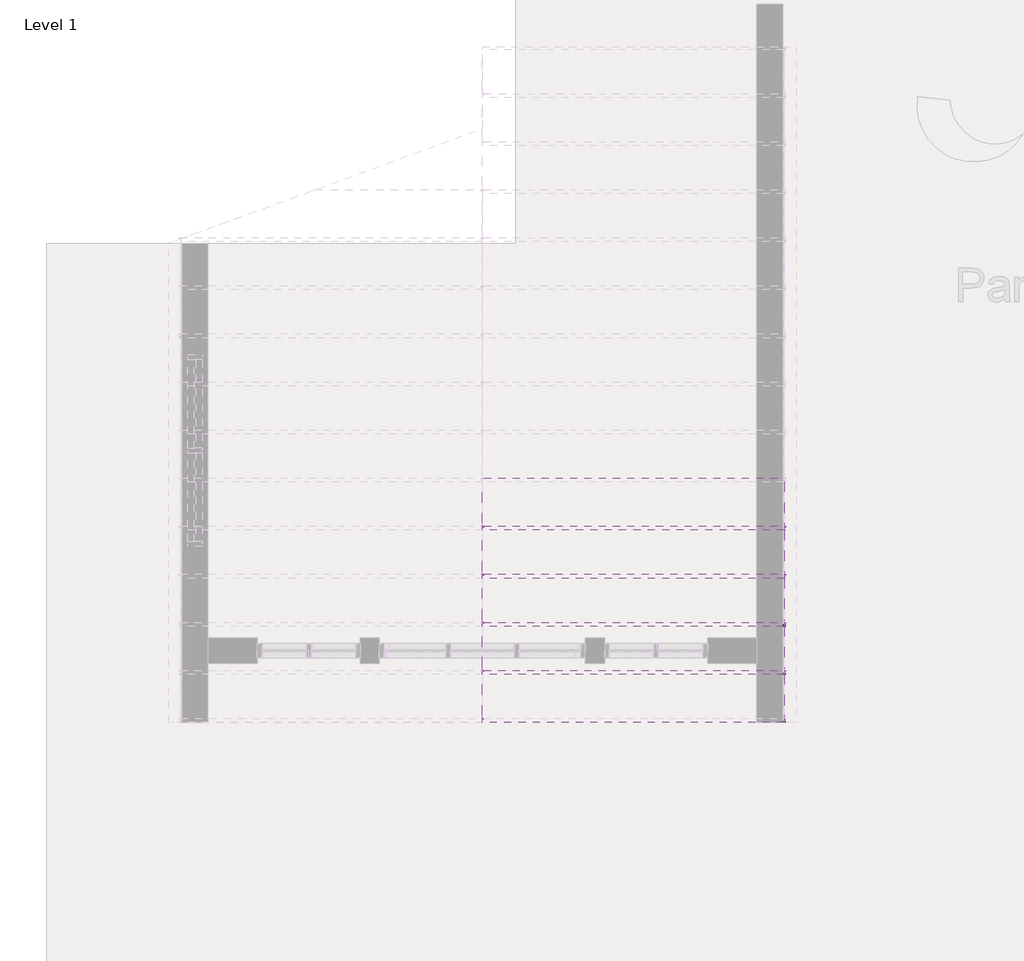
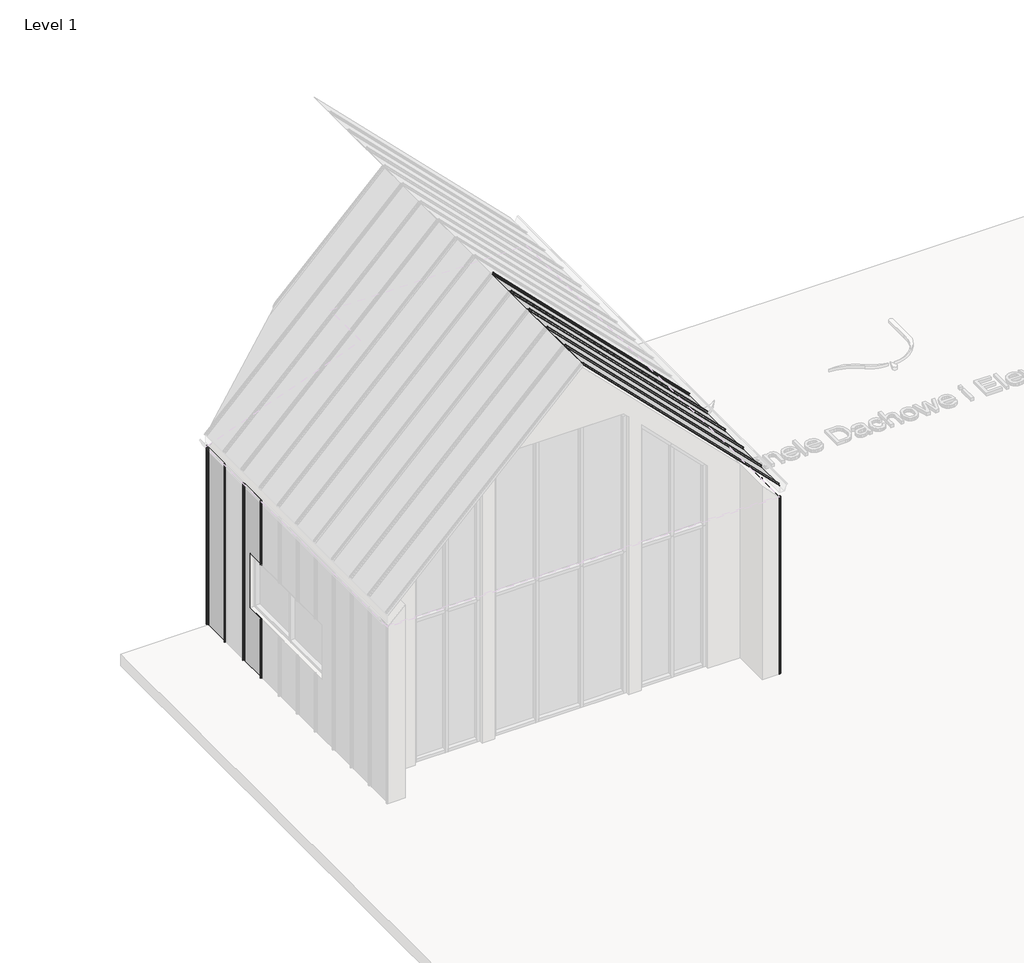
# One storey, part 5 of 22: 10 proxies.
"""IFC4 building model written with IfcOpenShell, lengths in millimetres."""

from ifc_helpers import new_model, si_unit, point, frame, frame_2d, origin, place, context, project, spatial, polyline, circle_curve, trimmed, segment, composite_curve, outline, extrude, transform, mapped, element, save
from components import aqua_579f6fc6

model = new_model("IFC4")

# Units and contexts
model_context = context("Model", 3, world=origin())
ifc_project = project(units=[si_unit("LENGTHUNIT", "METRE", prefix="MILLI")], contexts=[model_context])

# Site, building, storey
site = spatial("IfcSite", under=ifc_project)
building = spatial("IfcBuilding", under=site)
storey = spatial("IfcBuildingStorey", under=building, Name="Level 1", Elevation=0.0)

# Proxies
placement = place(None, origin())
element("IfcBuildingElementProxy", 1, Name="AQUAPLAST - Panel Dachowy i Elewacyjny Aqua : Aqua", ObjectType="AQUAPLAST - Panel Dachowy i Elewacyjny Aqua : Aqua", at=placement, inside=storey, context=model_context, shape_type="SweptSolid", body=[
    extrude(outline(polyline([(0.0, 432.2000503), (4454.0, 432.2000503), (4454.0, 0.0), (0.0, 0.0), (0.0, 432.2000503)])), frame((-5287.0692136, 8737.4302375, 6945.9959293), z_axis=(0.7071067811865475, 0.0, 0.7071067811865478), x_axis=(0.7071067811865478, 0.0, -0.7071067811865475)), (0.0, 0.0, 1.0), 0.8),
    extrude(outline(composite_curve([segment(polyline([(1.6, -36.6), (0.8, -40.1), (0.0, -40.1), (0.8000601, -36.6), (0.8000601, -12.7000752)]), True, "CONTINUOUS"), segment(trimmed(circle_curve(frame_2d((1.2999699, -12.7000752)), 0.4999098), [point((0.8000601, -12.7000752))], [point((1.2999699, -12.2001654))], False, "CARTESIAN"), True, "CONTINUOUS"), segment(polyline([(1.2999699, -12.2001654), (23.7003195, -12.2001654)]), True, "CONTINUOUS"), segment(trimmed(circle_curve(frame_2d((23.7003195, -11.6998422)), 0.5003233), [point((23.7003195, -12.2001654))], [point((24.2006428, -11.6998422))], True, "CARTESIAN"), True, "CONTINUOUS"), segment(polyline([(24.2006428, -11.6998422), (24.2006428, -1.2033228)]), True, "CONTINUOUS"), segment(trimmed(circle_curve(frame_2d((23.6993591, -1.2033228)), 0.5012837), [point((24.2006428, -1.2033228))], [point((23.6993591, -0.7020391))], True, "CARTESIAN"), True, "CONTINUOUS"), segment(polyline([(23.6993591, -0.7020391), (9.7850119, -0.7020391)]), True, "CONTINUOUS"), segment(trimmed(circle_curve(frame_2d((9.7850119, -1.6460516)), 0.9440125), [point((9.7850119, -0.7020391))], [point((8.9478643, -1.2097679))], True, "CARTESIAN"), True, "CONTINUOUS"), segment(trimmed(circle_curve(frame_2d((5.4137846, -0.6808077)), 3.5734462), [point((8.9478643, -1.2097679))], [point((1.8403383, -0.6808077))], False, "CARTESIAN"), True, "CONTINUOUS"), segment(polyline([(1.8403383, -0.6808077), (2.6405793, -0.6808077)]), True, "CONTINUOUS"), segment(trimmed(circle_curve(frame_2d((5.3847863, -0.6808077)), 2.7442071), [point((2.6405793, -0.6808077))], [point((8.1289934, -0.6808077))], True, "CARTESIAN"), True, "CONTINUOUS"), segment(trimmed(circle_curve(frame_2d((8.8039224, -0.6749544)), 0.6749543), [point((8.1289934, -0.6808077))], [point((8.8039224, 0.0))], False, "CARTESIAN"), True, "CONTINUOUS"), segment(polyline([(8.8039224, 0.0), (24.4999999, 0.0)]), True, "CONTINUOUS"), segment(trimmed(circle_curve(frame_2d((24.4999999, -0.5)), 0.5), [point((24.4999999, 0.0))], [point((25.0, -0.5))], False, "CARTESIAN"), True, "CONTINUOUS"), segment(polyline([(25.0, -0.5), (25.0, -12.5)]), True, "CONTINUOUS"), segment(trimmed(circle_curve(frame_2d((24.4999999, -12.5)), 0.5), [point((25.0, -12.5))], [point((24.4999999, -13.0))], False, "CARTESIAN"), True, "CONTINUOUS"), segment(polyline([(24.4999999, -13.0), (2.0999999, -13.0)]), True, "CONTINUOUS"), segment(trimmed(circle_curve(frame_2d((2.0999999, -13.5)), 0.5), [point((2.0999999, -13.0))], [point((1.6, -13.5))], True, "CARTESIAN"), True, "CONTINUOUS"), segment(polyline([(1.6, -13.5), (1.6, -36.6)]), True, "CONTINUOUS")], self_intersect=False)), frame((-2137.6156102, 9209.7302878, 3796.5423259), z_axis=(-0.7071067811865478, 0.0, 0.7071067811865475), x_axis=(0.7071067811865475, 0.0, 0.7071067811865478)), (0.0, 0.0, 1.0), 4454.0),
    extrude(outline(composite_curve([segment(polyline([(0.8, 0.0), (0.0, 0.0), (0.0, 31.2652327)]), True, "CONTINUOUS"), segment(trimmed(circle_curve(frame_2d((0.7400208, 31.2652327)), 0.7400208), [point((0.0, 31.2652327))], [point((0.6241817, 31.9961308))], False, "CARTESIAN"), True, "CONTINUOUS"), segment(polyline([(0.6241817, 31.9961308), (18.4803326, 34.8261302)]), True, "CONTINUOUS"), segment(trimmed(circle_curve(frame_2d((18.1818617, 36.709361)), 1.9067363), [point((18.4803326, 34.8261302))], [point((19.1352299, 38.3606431))], True, "CARTESIAN"), True, "CONTINUOUS"), segment(polyline([(19.1352299, 38.3606431), (11.8934079, 41.2724068)]), True, "CONTINUOUS"), segment(trimmed(circle_curve(frame_2d((11.2676679, 39.7161343)), 1.6773594), [point((11.8934079, 41.2724068))], [point((9.7513873, 40.4333707))], True, "CARTESIAN"), True, "CONTINUOUS"), segment(trimmed(circle_curve(frame_2d((5.5014361, 42.4436979)), 4.7014361), [point((9.7513873, 40.4333707))], [point((0.8, 42.4436979))], False, "CARTESIAN"), True, "CONTINUOUS"), segment(polyline([(0.8, 42.4436979), (0.8, 69.1999497), (0.0, 72.6999497), (0.8, 72.6999497), (1.6, 69.1999497), (1.6, 42.2845224)]), True, "CONTINUOUS"), segment(trimmed(circle_curve(frame_2d((5.4667311, 42.2845224)), 3.8667311), [point((1.6, 42.2845224))], [point((9.0024094, 40.7190866))], True, "CARTESIAN"), True, "CONTINUOUS"), segment(trimmed(circle_curve(frame_2d((11.2676679, 39.7161343)), 2.4773594), [point((9.0024094, 40.7190866))], [point((12.1941629, 42.0137236))], False, "CARTESIAN"), True, "CONTINUOUS"), segment(polyline([(12.1941629, 42.0137236), (19.5352299, 39.0534634)]), True, "CONTINUOUS"), segment(trimmed(circle_curve(frame_2d((18.1818617, 36.709361)), 2.7067363), [point((19.5352299, 39.0534634))], [point((18.7653553, 34.0662651))], False, "CARTESIAN"), True, "CONTINUOUS"), segment(polyline([(18.7653553, 34.0662651), (1.3501316, 31.0333084)]), True, "CONTINUOUS"), segment(trimmed(circle_curve(frame_2d((1.4640676, 30.379088)), 0.6640676), [point((1.3501316, 31.0333084))], [point((0.8, 30.379088))], True, "CARTESIAN"), True, "CONTINUOUS"), segment(polyline([(0.8, 30.379088), (0.8, 0.0)]), True, "CONTINUOUS")], self_intersect=False)), frame((-2137.6156102, 8664.7302878, 3796.5423259), z_axis=(-0.7071067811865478, 0.0, 0.7071067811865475), x_axis=(0.7071067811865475, 0.0, 0.7071067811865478)), (0.0, 0.0, 1.0), 4454.0),
])
element("IfcBuildingElementProxy", 2, Name="AQUAPLAST - Panel Dachowy i Elewacyjny Aqua : Aqua", ObjectType="AQUAPLAST - Panel Dachowy i Elewacyjny Aqua : Aqua", at=placement, inside=storey, context=model_context, shape_type="SweptSolid", body=[
    extrude(outline(polyline([(0.0, 432.2000503), (4454.0, 432.2000503), (4454.0, 0.0), (0.0, 0.0), (0.0, 432.2000503)])), frame((-5287.0692136, 9239.4302375, 6945.9959293), z_axis=(0.7071067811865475, 0.0, 0.7071067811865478), x_axis=(0.7071067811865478, 0.0, -0.7071067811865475)), (0.0, 0.0, 1.0), 0.8),
    extrude(outline(composite_curve([segment(polyline([(1.6, -36.6), (0.8, -40.1), (0.0, -40.1), (0.8000601, -36.6), (0.8000601, -12.7000752)]), True, "CONTINUOUS"), segment(trimmed(circle_curve(frame_2d((1.2999699, -12.7000752)), 0.4999098), [point((0.8000601, -12.7000752))], [point((1.2999699, -12.2001654))], False, "CARTESIAN"), True, "CONTINUOUS"), segment(polyline([(1.2999699, -12.2001654), (23.7003195, -12.2001654)]), True, "CONTINUOUS"), segment(trimmed(circle_curve(frame_2d((23.7003195, -11.6998422)), 0.5003233), [point((23.7003195, -12.2001654))], [point((24.2006428, -11.6998422))], True, "CARTESIAN"), True, "CONTINUOUS"), segment(polyline([(24.2006428, -11.6998422), (24.2006428, -1.2033228)]), True, "CONTINUOUS"), segment(trimmed(circle_curve(frame_2d((23.6993591, -1.2033228)), 0.5012837), [point((24.2006428, -1.2033228))], [point((23.6993591, -0.7020391))], True, "CARTESIAN"), True, "CONTINUOUS"), segment(polyline([(23.6993591, -0.7020391), (9.7850119, -0.7020391)]), True, "CONTINUOUS"), segment(trimmed(circle_curve(frame_2d((9.7850119, -1.6460516)), 0.9440125), [point((9.7850119, -0.7020391))], [point((8.9478643, -1.2097679))], True, "CARTESIAN"), True, "CONTINUOUS"), segment(trimmed(circle_curve(frame_2d((5.4137846, -0.6808077)), 3.5734462), [point((8.9478643, -1.2097679))], [point((1.8403383, -0.6808077))], False, "CARTESIAN"), True, "CONTINUOUS"), segment(polyline([(1.8403383, -0.6808077), (2.6405793, -0.6808077)]), True, "CONTINUOUS"), segment(trimmed(circle_curve(frame_2d((5.3847863, -0.6808077)), 2.7442071), [point((2.6405793, -0.6808077))], [point((8.1289934, -0.6808077))], True, "CARTESIAN"), True, "CONTINUOUS"), segment(trimmed(circle_curve(frame_2d((8.8039224, -0.6749544)), 0.6749543), [point((8.1289934, -0.6808077))], [point((8.8039224, 0.0))], False, "CARTESIAN"), True, "CONTINUOUS"), segment(polyline([(8.8039224, 0.0), (24.4999999, 0.0)]), True, "CONTINUOUS"), segment(trimmed(circle_curve(frame_2d((24.4999999, -0.5)), 0.5), [point((24.4999999, 0.0))], [point((25.0, -0.5))], False, "CARTESIAN"), True, "CONTINUOUS"), segment(polyline([(25.0, -0.5), (25.0, -12.5)]), True, "CONTINUOUS"), segment(trimmed(circle_curve(frame_2d((24.4999999, -12.5)), 0.5), [point((25.0, -12.5))], [point((24.4999999, -13.0))], False, "CARTESIAN"), True, "CONTINUOUS"), segment(polyline([(24.4999999, -13.0), (2.0999999, -13.0)]), True, "CONTINUOUS"), segment(trimmed(circle_curve(frame_2d((2.0999999, -13.5)), 0.5), [point((2.0999999, -13.0))], [point((1.6, -13.5))], True, "CARTESIAN"), True, "CONTINUOUS"), segment(polyline([(1.6, -13.5), (1.6, -36.6)]), True, "CONTINUOUS")], self_intersect=False)), frame((-2137.6156102, 9711.7302878, 3796.5423259), z_axis=(-0.7071067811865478, 0.0, 0.7071067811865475), x_axis=(0.7071067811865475, 0.0, 0.7071067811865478)), (0.0, 0.0, 1.0), 4454.0),
    extrude(outline(composite_curve([segment(polyline([(0.8, 0.0), (0.0, 0.0), (0.0, 31.2652327)]), True, "CONTINUOUS"), segment(trimmed(circle_curve(frame_2d((0.7400208, 31.2652327)), 0.7400208), [point((0.0, 31.2652327))], [point((0.6241817, 31.9961308))], False, "CARTESIAN"), True, "CONTINUOUS"), segment(polyline([(0.6241817, 31.9961308), (18.4803326, 34.8261302)]), True, "CONTINUOUS"), segment(trimmed(circle_curve(frame_2d((18.1818617, 36.709361)), 1.9067363), [point((18.4803326, 34.8261302))], [point((19.1352299, 38.3606431))], True, "CARTESIAN"), True, "CONTINUOUS"), segment(polyline([(19.1352299, 38.3606431), (11.8934079, 41.2724068)]), True, "CONTINUOUS"), segment(trimmed(circle_curve(frame_2d((11.2676679, 39.7161343)), 1.6773594), [point((11.8934079, 41.2724068))], [point((9.7513873, 40.4333707))], True, "CARTESIAN"), True, "CONTINUOUS"), segment(trimmed(circle_curve(frame_2d((5.5014361, 42.4436979)), 4.7014361), [point((9.7513873, 40.4333707))], [point((0.8, 42.4436979))], False, "CARTESIAN"), True, "CONTINUOUS"), segment(polyline([(0.8, 42.4436979), (0.8, 69.1999497), (0.0, 72.6999497), (0.8, 72.6999497), (1.6, 69.1999497), (1.6, 42.2845224)]), True, "CONTINUOUS"), segment(trimmed(circle_curve(frame_2d((5.4667311, 42.2845224)), 3.8667311), [point((1.6, 42.2845224))], [point((9.0024094, 40.7190866))], True, "CARTESIAN"), True, "CONTINUOUS"), segment(trimmed(circle_curve(frame_2d((11.2676679, 39.7161343)), 2.4773594), [point((9.0024094, 40.7190866))], [point((12.1941629, 42.0137236))], False, "CARTESIAN"), True, "CONTINUOUS"), segment(polyline([(12.1941629, 42.0137236), (19.5352299, 39.0534634)]), True, "CONTINUOUS"), segment(trimmed(circle_curve(frame_2d((18.1818617, 36.709361)), 2.7067363), [point((19.5352299, 39.0534634))], [point((18.7653553, 34.0662651))], False, "CARTESIAN"), True, "CONTINUOUS"), segment(polyline([(18.7653553, 34.0662651), (1.3501316, 31.0333084)]), True, "CONTINUOUS"), segment(trimmed(circle_curve(frame_2d((1.4640676, 30.379088)), 0.6640676), [point((1.3501316, 31.0333084))], [point((0.8, 30.379088))], True, "CARTESIAN"), True, "CONTINUOUS"), segment(polyline([(0.8, 30.379088), (0.8, 0.0)]), True, "CONTINUOUS")], self_intersect=False)), frame((-2137.6156102, 9166.7302878, 3796.5423259), z_axis=(-0.7071067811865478, 0.0, 0.7071067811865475), x_axis=(0.7071067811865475, 0.0, 0.7071067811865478)), (0.0, 0.0, 1.0), 4454.0),
])
element("IfcBuildingElementProxy", 3, Name="AQUAPLAST - Panel Dachowy i Elewacyjny Aqua : Aqua", ObjectType="AQUAPLAST - Panel Dachowy i Elewacyjny Aqua : Aqua", at=placement, inside=storey, context=model_context, shape_type="SweptSolid", body=[
    extrude(outline(polyline([(0.0, 432.2000503), (4454.0, 432.2000503), (4454.0, 0.0), (0.0, 0.0), (0.0, 432.2000503)])), frame((-5287.0692136, 9741.4302375, 6945.9959293), z_axis=(0.7071067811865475, 0.0, 0.7071067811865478), x_axis=(0.7071067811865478, 0.0, -0.7071067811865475)), (0.0, 0.0, 1.0), 0.8),
    extrude(outline(composite_curve([segment(polyline([(1.6, -36.6), (0.8, -40.1), (0.0, -40.1), (0.8000601, -36.6), (0.8000601, -12.7000752)]), True, "CONTINUOUS"), segment(trimmed(circle_curve(frame_2d((1.2999699, -12.7000752)), 0.4999098), [point((0.8000601, -12.7000752))], [point((1.2999699, -12.2001654))], False, "CARTESIAN"), True, "CONTINUOUS"), segment(polyline([(1.2999699, -12.2001654), (23.7003195, -12.2001654)]), True, "CONTINUOUS"), segment(trimmed(circle_curve(frame_2d((23.7003195, -11.6998422)), 0.5003233), [point((23.7003195, -12.2001654))], [point((24.2006428, -11.6998422))], True, "CARTESIAN"), True, "CONTINUOUS"), segment(polyline([(24.2006428, -11.6998422), (24.2006428, -1.2033228)]), True, "CONTINUOUS"), segment(trimmed(circle_curve(frame_2d((23.6993591, -1.2033228)), 0.5012837), [point((24.2006428, -1.2033228))], [point((23.6993591, -0.7020391))], True, "CARTESIAN"), True, "CONTINUOUS"), segment(polyline([(23.6993591, -0.7020391), (9.7850119, -0.7020391)]), True, "CONTINUOUS"), segment(trimmed(circle_curve(frame_2d((9.7850119, -1.6460516)), 0.9440125), [point((9.7850119, -0.7020391))], [point((8.9478643, -1.2097679))], True, "CARTESIAN"), True, "CONTINUOUS"), segment(trimmed(circle_curve(frame_2d((5.4137846, -0.6808077)), 3.5734462), [point((8.9478643, -1.2097679))], [point((1.8403383, -0.6808077))], False, "CARTESIAN"), True, "CONTINUOUS"), segment(polyline([(1.8403383, -0.6808077), (2.6405793, -0.6808077)]), True, "CONTINUOUS"), segment(trimmed(circle_curve(frame_2d((5.3847863, -0.6808077)), 2.7442071), [point((2.6405793, -0.6808077))], [point((8.1289934, -0.6808077))], True, "CARTESIAN"), True, "CONTINUOUS"), segment(trimmed(circle_curve(frame_2d((8.8039224, -0.6749544)), 0.6749543), [point((8.1289934, -0.6808077))], [point((8.8039224, 0.0))], False, "CARTESIAN"), True, "CONTINUOUS"), segment(polyline([(8.8039224, 0.0), (24.4999999, 0.0)]), True, "CONTINUOUS"), segment(trimmed(circle_curve(frame_2d((24.4999999, -0.5)), 0.5), [point((24.4999999, 0.0))], [point((25.0, -0.5))], False, "CARTESIAN"), True, "CONTINUOUS"), segment(polyline([(25.0, -0.5), (25.0, -12.5)]), True, "CONTINUOUS"), segment(trimmed(circle_curve(frame_2d((24.4999999, -12.5)), 0.5), [point((25.0, -12.5))], [point((24.4999999, -13.0))], False, "CARTESIAN"), True, "CONTINUOUS"), segment(polyline([(24.4999999, -13.0), (2.0999999, -13.0)]), True, "CONTINUOUS"), segment(trimmed(circle_curve(frame_2d((2.0999999, -13.5)), 0.5), [point((2.0999999, -13.0))], [point((1.6, -13.5))], True, "CARTESIAN"), True, "CONTINUOUS"), segment(polyline([(1.6, -13.5), (1.6, -36.6)]), True, "CONTINUOUS")], self_intersect=False)), frame((-2137.6156102, 10213.7302878, 3796.5423259), z_axis=(-0.7071067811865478, 0.0, 0.7071067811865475), x_axis=(0.7071067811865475, 0.0, 0.7071067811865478)), (0.0, 0.0, 1.0), 4454.0),
    extrude(outline(composite_curve([segment(polyline([(0.8, 0.0), (0.0, 0.0), (0.0, 31.2652327)]), True, "CONTINUOUS"), segment(trimmed(circle_curve(frame_2d((0.7400208, 31.2652327)), 0.7400208), [point((0.0, 31.2652327))], [point((0.6241817, 31.9961308))], False, "CARTESIAN"), True, "CONTINUOUS"), segment(polyline([(0.6241817, 31.9961308), (18.4803326, 34.8261302)]), True, "CONTINUOUS"), segment(trimmed(circle_curve(frame_2d((18.1818617, 36.709361)), 1.9067363), [point((18.4803326, 34.8261302))], [point((19.1352299, 38.3606431))], True, "CARTESIAN"), True, "CONTINUOUS"), segment(polyline([(19.1352299, 38.3606431), (11.8934079, 41.2724068)]), True, "CONTINUOUS"), segment(trimmed(circle_curve(frame_2d((11.2676679, 39.7161343)), 1.6773594), [point((11.8934079, 41.2724068))], [point((9.7513873, 40.4333707))], True, "CARTESIAN"), True, "CONTINUOUS"), segment(trimmed(circle_curve(frame_2d((5.5014361, 42.4436979)), 4.7014361), [point((9.7513873, 40.4333707))], [point((0.8, 42.4436979))], False, "CARTESIAN"), True, "CONTINUOUS"), segment(polyline([(0.8, 42.4436979), (0.8, 69.1999497), (0.0, 72.6999497), (0.8, 72.6999497), (1.6, 69.1999497), (1.6, 42.2845224)]), True, "CONTINUOUS"), segment(trimmed(circle_curve(frame_2d((5.4667311, 42.2845224)), 3.8667311), [point((1.6, 42.2845224))], [point((9.0024094, 40.7190866))], True, "CARTESIAN"), True, "CONTINUOUS"), segment(trimmed(circle_curve(frame_2d((11.2676679, 39.7161343)), 2.4773594), [point((9.0024094, 40.7190866))], [point((12.1941629, 42.0137236))], False, "CARTESIAN"), True, "CONTINUOUS"), segment(polyline([(12.1941629, 42.0137236), (19.5352299, 39.0534634)]), True, "CONTINUOUS"), segment(trimmed(circle_curve(frame_2d((18.1818617, 36.709361)), 2.7067363), [point((19.5352299, 39.0534634))], [point((18.7653553, 34.0662651))], False, "CARTESIAN"), True, "CONTINUOUS"), segment(polyline([(18.7653553, 34.0662651), (1.3501316, 31.0333084)]), True, "CONTINUOUS"), segment(trimmed(circle_curve(frame_2d((1.4640676, 30.379088)), 0.6640676), [point((1.3501316, 31.0333084))], [point((0.8, 30.379088))], True, "CARTESIAN"), True, "CONTINUOUS"), segment(polyline([(0.8, 30.379088), (0.8, 0.0)]), True, "CONTINUOUS")], self_intersect=False)), frame((-2137.6156102, 9668.7302878, 3796.5423259), z_axis=(-0.7071067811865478, 0.0, 0.7071067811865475), x_axis=(0.7071067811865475, 0.0, 0.7071067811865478)), (0.0, 0.0, 1.0), 4454.0),
])
element("IfcBuildingElementProxy", 4, Name="AQUAPLAST - Panel Dachowy i Elewacyjny Aqua : Aqua", ObjectType="AQUAPLAST - Panel Dachowy i Elewacyjny Aqua : Aqua", at=placement, inside=storey, context=model_context, shape_type="SweptSolid", body=[
    extrude(outline(polyline([(0.0, 432.2000503), (4454.0, 432.2000503), (4454.0, 0.0), (0.0, 0.0), (0.0, 432.2000503)])), frame((-5287.0692136, 10243.4302375, 6945.9959293), z_axis=(0.7071067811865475, 0.0, 0.7071067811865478), x_axis=(0.7071067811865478, 0.0, -0.7071067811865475)), (0.0, 0.0, 1.0), 0.8),
    extrude(outline(composite_curve([segment(polyline([(1.6, -36.6), (0.8, -40.1), (0.0, -40.1), (0.8000601, -36.6), (0.8000601, -12.7000752)]), True, "CONTINUOUS"), segment(trimmed(circle_curve(frame_2d((1.2999699, -12.7000752)), 0.4999098), [point((0.8000601, -12.7000752))], [point((1.2999699, -12.2001654))], False, "CARTESIAN"), True, "CONTINUOUS"), segment(polyline([(1.2999699, -12.2001654), (23.7003195, -12.2001654)]), True, "CONTINUOUS"), segment(trimmed(circle_curve(frame_2d((23.7003195, -11.6998422)), 0.5003233), [point((23.7003195, -12.2001654))], [point((24.2006428, -11.6998422))], True, "CARTESIAN"), True, "CONTINUOUS"), segment(polyline([(24.2006428, -11.6998422), (24.2006428, -1.2033228)]), True, "CONTINUOUS"), segment(trimmed(circle_curve(frame_2d((23.6993591, -1.2033228)), 0.5012837), [point((24.2006428, -1.2033228))], [point((23.6993591, -0.7020391))], True, "CARTESIAN"), True, "CONTINUOUS"), segment(polyline([(23.6993591, -0.7020391), (9.7850119, -0.7020391)]), True, "CONTINUOUS"), segment(trimmed(circle_curve(frame_2d((9.7850119, -1.6460516)), 0.9440125), [point((9.7850119, -0.7020391))], [point((8.9478643, -1.2097679))], True, "CARTESIAN"), True, "CONTINUOUS"), segment(trimmed(circle_curve(frame_2d((5.4137846, -0.6808077)), 3.5734462), [point((8.9478643, -1.2097679))], [point((1.8403383, -0.6808077))], False, "CARTESIAN"), True, "CONTINUOUS"), segment(polyline([(1.8403383, -0.6808077), (2.6405793, -0.6808077)]), True, "CONTINUOUS"), segment(trimmed(circle_curve(frame_2d((5.3847863, -0.6808077)), 2.7442071), [point((2.6405793, -0.6808077))], [point((8.1289934, -0.6808077))], True, "CARTESIAN"), True, "CONTINUOUS"), segment(trimmed(circle_curve(frame_2d((8.8039224, -0.6749544)), 0.6749543), [point((8.1289934, -0.6808077))], [point((8.8039224, 0.0))], False, "CARTESIAN"), True, "CONTINUOUS"), segment(polyline([(8.8039224, 0.0), (24.4999999, 0.0)]), True, "CONTINUOUS"), segment(trimmed(circle_curve(frame_2d((24.4999999, -0.5)), 0.5), [point((24.4999999, 0.0))], [point((25.0, -0.5))], False, "CARTESIAN"), True, "CONTINUOUS"), segment(polyline([(25.0, -0.5), (25.0, -12.5)]), True, "CONTINUOUS"), segment(trimmed(circle_curve(frame_2d((24.4999999, -12.5)), 0.5), [point((25.0, -12.5))], [point((24.4999999, -13.0))], False, "CARTESIAN"), True, "CONTINUOUS"), segment(polyline([(24.4999999, -13.0), (2.0999999, -13.0)]), True, "CONTINUOUS"), segment(trimmed(circle_curve(frame_2d((2.0999999, -13.5)), 0.5), [point((2.0999999, -13.0))], [point((1.6, -13.5))], True, "CARTESIAN"), True, "CONTINUOUS"), segment(polyline([(1.6, -13.5), (1.6, -36.6)]), True, "CONTINUOUS")], self_intersect=False)), frame((-2137.6156102, 10715.7302878, 3796.5423259), z_axis=(-0.7071067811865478, 0.0, 0.7071067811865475), x_axis=(0.7071067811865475, 0.0, 0.7071067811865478)), (0.0, 0.0, 1.0), 4454.0),
    extrude(outline(composite_curve([segment(polyline([(0.8, 0.0), (0.0, 0.0), (0.0, 31.2652327)]), True, "CONTINUOUS"), segment(trimmed(circle_curve(frame_2d((0.7400208, 31.2652327)), 0.7400208), [point((0.0, 31.2652327))], [point((0.6241817, 31.9961308))], False, "CARTESIAN"), True, "CONTINUOUS"), segment(polyline([(0.6241817, 31.9961308), (18.4803326, 34.8261302)]), True, "CONTINUOUS"), segment(trimmed(circle_curve(frame_2d((18.1818617, 36.709361)), 1.9067363), [point((18.4803326, 34.8261302))], [point((19.1352299, 38.3606431))], True, "CARTESIAN"), True, "CONTINUOUS"), segment(polyline([(19.1352299, 38.3606431), (11.8934079, 41.2724068)]), True, "CONTINUOUS"), segment(trimmed(circle_curve(frame_2d((11.2676679, 39.7161343)), 1.6773594), [point((11.8934079, 41.2724068))], [point((9.7513873, 40.4333707))], True, "CARTESIAN"), True, "CONTINUOUS"), segment(trimmed(circle_curve(frame_2d((5.5014361, 42.4436979)), 4.7014361), [point((9.7513873, 40.4333707))], [point((0.8, 42.4436979))], False, "CARTESIAN"), True, "CONTINUOUS"), segment(polyline([(0.8, 42.4436979), (0.8, 69.1999497), (0.0, 72.6999497), (0.8, 72.6999497), (1.6, 69.1999497), (1.6, 42.2845224)]), True, "CONTINUOUS"), segment(trimmed(circle_curve(frame_2d((5.4667311, 42.2845224)), 3.8667311), [point((1.6, 42.2845224))], [point((9.0024094, 40.7190866))], True, "CARTESIAN"), True, "CONTINUOUS"), segment(trimmed(circle_curve(frame_2d((11.2676679, 39.7161343)), 2.4773594), [point((9.0024094, 40.7190866))], [point((12.1941629, 42.0137236))], False, "CARTESIAN"), True, "CONTINUOUS"), segment(polyline([(12.1941629, 42.0137236), (19.5352299, 39.0534634)]), True, "CONTINUOUS"), segment(trimmed(circle_curve(frame_2d((18.1818617, 36.709361)), 2.7067363), [point((19.5352299, 39.0534634))], [point((18.7653553, 34.0662651))], False, "CARTESIAN"), True, "CONTINUOUS"), segment(polyline([(18.7653553, 34.0662651), (1.3501316, 31.0333084)]), True, "CONTINUOUS"), segment(trimmed(circle_curve(frame_2d((1.4640676, 30.379088)), 0.6640676), [point((1.3501316, 31.0333084))], [point((0.8, 30.379088))], True, "CARTESIAN"), True, "CONTINUOUS"), segment(polyline([(0.8, 30.379088), (0.8, 0.0)]), True, "CONTINUOUS")], self_intersect=False)), frame((-2137.6156102, 10170.7302878, 3796.5423259), z_axis=(-0.7071067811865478, 0.0, 0.7071067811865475), x_axis=(0.7071067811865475, 0.0, 0.7071067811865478)), (0.0, 0.0, 1.0), 4454.0),
])
element("IfcBuildingElementProxy", 5, Name="AQUAPLAST - Panel Dachowy i Elewacyjny Aqua : Aqua", ObjectType="AQUAPLAST - Panel Dachowy i Elewacyjny Aqua : Aqua", at=placement, inside=storey, context=model_context, shape_type="SweptSolid", body=[
    extrude(outline(polyline([(0.0, 432.2000503), (4454.0, 432.2000503), (4454.0, 0.0), (0.0, 0.0), (0.0, 432.2000503)])), frame((-5287.0692136, 10745.4302375, 6945.9959293), z_axis=(0.7071067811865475, 0.0, 0.7071067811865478), x_axis=(0.7071067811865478, 0.0, -0.7071067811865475)), (0.0, 0.0, 1.0), 0.8),
    extrude(outline(composite_curve([segment(polyline([(1.6, -36.6), (0.8, -40.1), (0.0, -40.1), (0.8000601, -36.6), (0.8000601, -12.7000752)]), True, "CONTINUOUS"), segment(trimmed(circle_curve(frame_2d((1.2999699, -12.7000752)), 0.4999098), [point((0.8000601, -12.7000752))], [point((1.2999699, -12.2001654))], False, "CARTESIAN"), True, "CONTINUOUS"), segment(polyline([(1.2999699, -12.2001654), (23.7003195, -12.2001654)]), True, "CONTINUOUS"), segment(trimmed(circle_curve(frame_2d((23.7003195, -11.6998422)), 0.5003233), [point((23.7003195, -12.2001654))], [point((24.2006428, -11.6998422))], True, "CARTESIAN"), True, "CONTINUOUS"), segment(polyline([(24.2006428, -11.6998422), (24.2006428, -1.2033228)]), True, "CONTINUOUS"), segment(trimmed(circle_curve(frame_2d((23.6993591, -1.2033228)), 0.5012837), [point((24.2006428, -1.2033228))], [point((23.6993591, -0.7020391))], True, "CARTESIAN"), True, "CONTINUOUS"), segment(polyline([(23.6993591, -0.7020391), (9.7850119, -0.7020391)]), True, "CONTINUOUS"), segment(trimmed(circle_curve(frame_2d((9.7850119, -1.6460516)), 0.9440125), [point((9.7850119, -0.7020391))], [point((8.9478643, -1.2097679))], True, "CARTESIAN"), True, "CONTINUOUS"), segment(trimmed(circle_curve(frame_2d((5.4137846, -0.6808077)), 3.5734462), [point((8.9478643, -1.2097679))], [point((1.8403383, -0.6808077))], False, "CARTESIAN"), True, "CONTINUOUS"), segment(polyline([(1.8403383, -0.6808077), (2.6405793, -0.6808077)]), True, "CONTINUOUS"), segment(trimmed(circle_curve(frame_2d((5.3847863, -0.6808077)), 2.7442071), [point((2.6405793, -0.6808077))], [point((8.1289934, -0.6808077))], True, "CARTESIAN"), True, "CONTINUOUS"), segment(trimmed(circle_curve(frame_2d((8.8039224, -0.6749544)), 0.6749543), [point((8.1289934, -0.6808077))], [point((8.8039224, 0.0))], False, "CARTESIAN"), True, "CONTINUOUS"), segment(polyline([(8.8039224, 0.0), (24.4999999, 0.0)]), True, "CONTINUOUS"), segment(trimmed(circle_curve(frame_2d((24.4999999, -0.5)), 0.5), [point((24.4999999, 0.0))], [point((25.0, -0.5))], False, "CARTESIAN"), True, "CONTINUOUS"), segment(polyline([(25.0, -0.5), (25.0, -12.5)]), True, "CONTINUOUS"), segment(trimmed(circle_curve(frame_2d((24.4999999, -12.5)), 0.5), [point((25.0, -12.5))], [point((24.4999999, -13.0))], False, "CARTESIAN"), True, "CONTINUOUS"), segment(polyline([(24.4999999, -13.0), (2.0999999, -13.0)]), True, "CONTINUOUS"), segment(trimmed(circle_curve(frame_2d((2.0999999, -13.5)), 0.5), [point((2.0999999, -13.0))], [point((1.6, -13.5))], True, "CARTESIAN"), True, "CONTINUOUS"), segment(polyline([(1.6, -13.5), (1.6, -36.6)]), True, "CONTINUOUS")], self_intersect=False)), frame((-2137.6156102, 11217.7302878, 3796.5423259), z_axis=(-0.7071067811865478, 0.0, 0.7071067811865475), x_axis=(0.7071067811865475, 0.0, 0.7071067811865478)), (0.0, 0.0, 1.0), 4454.0),
    extrude(outline(composite_curve([segment(polyline([(0.8, 0.0), (0.0, 0.0), (0.0, 31.2652327)]), True, "CONTINUOUS"), segment(trimmed(circle_curve(frame_2d((0.7400208, 31.2652327)), 0.7400208), [point((0.0, 31.2652327))], [point((0.6241817, 31.9961308))], False, "CARTESIAN"), True, "CONTINUOUS"), segment(polyline([(0.6241817, 31.9961308), (18.4803326, 34.8261302)]), True, "CONTINUOUS"), segment(trimmed(circle_curve(frame_2d((18.1818617, 36.709361)), 1.9067363), [point((18.4803326, 34.8261302))], [point((19.1352299, 38.3606431))], True, "CARTESIAN"), True, "CONTINUOUS"), segment(polyline([(19.1352299, 38.3606431), (11.8934079, 41.2724068)]), True, "CONTINUOUS"), segment(trimmed(circle_curve(frame_2d((11.2676679, 39.7161343)), 1.6773594), [point((11.8934079, 41.2724068))], [point((9.7513873, 40.4333707))], True, "CARTESIAN"), True, "CONTINUOUS"), segment(trimmed(circle_curve(frame_2d((5.5014361, 42.4436979)), 4.7014361), [point((9.7513873, 40.4333707))], [point((0.8, 42.4436979))], False, "CARTESIAN"), True, "CONTINUOUS"), segment(polyline([(0.8, 42.4436979), (0.8, 69.1999497), (0.0, 72.6999497), (0.8, 72.6999497), (1.6, 69.1999497), (1.6, 42.2845224)]), True, "CONTINUOUS"), segment(trimmed(circle_curve(frame_2d((5.4667311, 42.2845224)), 3.8667311), [point((1.6, 42.2845224))], [point((9.0024094, 40.7190866))], True, "CARTESIAN"), True, "CONTINUOUS"), segment(trimmed(circle_curve(frame_2d((11.2676679, 39.7161343)), 2.4773594), [point((9.0024094, 40.7190866))], [point((12.1941629, 42.0137236))], False, "CARTESIAN"), True, "CONTINUOUS"), segment(polyline([(12.1941629, 42.0137236), (19.5352299, 39.0534634)]), True, "CONTINUOUS"), segment(trimmed(circle_curve(frame_2d((18.1818617, 36.709361)), 2.7067363), [point((19.5352299, 39.0534634))], [point((18.7653553, 34.0662651))], False, "CARTESIAN"), True, "CONTINUOUS"), segment(polyline([(18.7653553, 34.0662651), (1.3501316, 31.0333084)]), True, "CONTINUOUS"), segment(trimmed(circle_curve(frame_2d((1.4640676, 30.379088)), 0.6640676), [point((1.3501316, 31.0333084))], [point((0.8, 30.379088))], True, "CARTESIAN"), True, "CONTINUOUS"), segment(polyline([(0.8, 30.379088), (0.8, 0.0)]), True, "CONTINUOUS")], self_intersect=False)), frame((-2137.6156102, 10672.7302878, 3796.5423259), z_axis=(-0.7071067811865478, 0.0, 0.7071067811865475), x_axis=(0.7071067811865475, 0.0, 0.7071067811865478)), (0.0, 0.0, 1.0), 4454.0),
])
element("IfcBuildingElementProxy", 6, Name="AQUAPLAST - Panel Dachowy i Elewacyjny Aqua : Aqua", ObjectType="AQUAPLAST - Panel Dachowy i Elewacyjny Aqua : Aqua", at=placement, inside=storey, context=model_context, shape_type="SweptSolid", body=[
    extrude(outline(polyline([(12218.1494801, 3613.0), (12650.3495304, 3613.0), (12650.3495304, 600.0), (12218.1494801, 600.0), (12218.1494801, 1598.0), (12504.758587, 1598.0), (12504.758587, 2520.0), (12218.1494801, 2520.0), (12218.1494801, 3613.0)])), frame((-8422.863183, 0.0, 0.0), z_axis=(1.0, 0.0, 0.0), x_axis=(0.0, 1.0, 0.0)), (0.0, 0.0, 1.0), 0.8),
    extrude(outline(composite_curve([segment(polyline([(-8423.363153, 12190.2496455), (-8445.7635025, 12190.2496455)]), True, "CONTINUOUS"), segment(trimmed(circle_curve(frame_2d((-8445.7635025, 12189.7493222)), 0.5003233), [point((-8445.7635025, 12190.2496455))], [point((-8446.2638258, 12189.7493222))], True, "CARTESIAN"), True, "CONTINUOUS"), segment(polyline([(-8446.2638258, 12189.7493222), (-8446.2638258, 12179.2528028)]), True, "CONTINUOUS"), segment(trimmed(circle_curve(frame_2d((-8445.7625421, 12179.2528028)), 0.5012837), [point((-8446.2638258, 12179.2528028))], [point((-8445.7625421, 12178.7515191))], True, "CARTESIAN"), True, "CONTINUOUS"), segment(polyline([(-8445.7625421, 12178.7515191), (-8431.8481949, 12178.7515191)]), True, "CONTINUOUS"), segment(trimmed(circle_curve(frame_2d((-8431.8481949, 12179.6955317)), 0.9440125), [point((-8431.8481949, 12178.7515191))], [point((-8431.0110473, 12179.259248))], True, "CARTESIAN"), True, "CONTINUOUS"), segment(trimmed(circle_curve(frame_2d((-8427.4769676, 12178.7302878)), 3.5734462), [point((-8431.0110473, 12179.259248))], [point((-8423.9035214, 12178.7302878))], False, "CARTESIAN"), True, "CONTINUOUS"), segment(polyline([(-8423.9035214, 12178.7302878), (-8424.7037623, 12178.7302878)]), True, "CONTINUOUS"), segment(trimmed(circle_curve(frame_2d((-8427.4479694, 12178.7302878)), 2.7442071), [point((-8424.7037623, 12178.7302878))], [point((-8430.1921764, 12178.7302878))], True, "CARTESIAN"), True, "CONTINUOUS"), segment(trimmed(circle_curve(frame_2d((-8430.8671054, 12178.7244344)), 0.6749543), [point((-8430.1921764, 12178.7302878))], [point((-8430.8671054, 12178.0494801))], False, "CARTESIAN"), True, "CONTINUOUS"), segment(polyline([(-8430.8671054, 12178.0494801), (-8446.563183, 12178.0494801)]), True, "CONTINUOUS"), segment(trimmed(circle_curve(frame_2d((-8446.563183, 12178.5494801)), 0.5), [point((-8446.563183, 12178.0494801))], [point((-8447.063183, 12178.5494801))], False, "CARTESIAN"), True, "CONTINUOUS"), segment(polyline([(-8447.063183, 12178.5494801), (-8447.063183, 12190.5494801)]), True, "CONTINUOUS"), segment(trimmed(circle_curve(frame_2d((-8446.563183, 12190.5494801)), 0.5), [point((-8447.063183, 12190.5494801))], [point((-8446.563183, 12191.0494801))], False, "CARTESIAN"), True, "CONTINUOUS"), segment(polyline([(-8446.563183, 12191.0494801), (-8424.163183, 12191.0494801)]), True, "CONTINUOUS"), segment(trimmed(circle_curve(frame_2d((-8424.163183, 12191.5494801)), 0.5), [point((-8424.163183, 12191.0494801))], [point((-8423.663183, 12191.5494801))], True, "CARTESIAN"), True, "CONTINUOUS"), segment(polyline([(-8423.663183, 12191.5494801), (-8423.663183, 12214.6494801), (-8422.863183, 12218.1494801), (-8422.063183, 12218.1494801), (-8422.8632432, 12214.6494801), (-8422.8632432, 12190.7495553)]), True, "CONTINUOUS"), segment(trimmed(circle_curve(frame_2d((-8423.363153, 12190.7495553)), 0.4999098), [point((-8422.8632432, 12190.7495553))], [point((-8423.363153, 12190.2496455))], False, "CARTESIAN"), True, "CONTINUOUS")], self_intersect=False)), frame((0.0, 0.0, 600.0), z_axis=(0.0, 0.0, 1.0), x_axis=(1.0, 0.0, 0.0)), (0.0, 0.0, 1.0), 998.0),
    extrude(outline(composite_curve([segment(polyline([(-8422.863183, 12218.1494801), (-8422.063183, 12218.1494801), (-8422.8632432, 12214.6494801), (-8422.8632432, 12190.7495553)]), True, "CONTINUOUS"), segment(trimmed(circle_curve(frame_2d((-8423.363153, 12190.7495553)), 0.4999098), [point((-8422.8632432, 12190.7495553))], [point((-8423.363153, 12190.2496455))], False, "CARTESIAN"), True, "CONTINUOUS"), segment(polyline([(-8423.363153, 12190.2496455), (-8445.7635025, 12190.2496455)]), True, "CONTINUOUS"), segment(trimmed(circle_curve(frame_2d((-8445.7635025, 12189.7493222)), 0.5003233), [point((-8445.7635025, 12190.2496455))], [point((-8446.2638258, 12189.7493222))], True, "CARTESIAN"), True, "CONTINUOUS"), segment(polyline([(-8446.2638258, 12189.7493222), (-8446.2638258, 12179.2528028)]), True, "CONTINUOUS"), segment(trimmed(circle_curve(frame_2d((-8445.7625421, 12179.2528028)), 0.5012837), [point((-8446.2638258, 12179.2528028))], [point((-8445.7625421, 12178.7515191))], True, "CARTESIAN"), True, "CONTINUOUS"), segment(polyline([(-8445.7625421, 12178.7515191), (-8431.8481949, 12178.7515191)]), True, "CONTINUOUS"), segment(trimmed(circle_curve(frame_2d((-8431.8481949, 12179.6955317)), 0.9440125), [point((-8431.8481949, 12178.7515191))], [point((-8431.0110473, 12179.259248))], True, "CARTESIAN"), True, "CONTINUOUS"), segment(trimmed(circle_curve(frame_2d((-8427.4769676, 12178.7302878)), 3.5734462), [point((-8431.0110473, 12179.259248))], [point((-8423.9035214, 12178.7302878))], False, "CARTESIAN"), True, "CONTINUOUS"), segment(polyline([(-8423.9035214, 12178.7302878), (-8424.7037623, 12178.7302878)]), True, "CONTINUOUS"), segment(trimmed(circle_curve(frame_2d((-8427.4479694, 12178.7302878)), 2.7442071), [point((-8424.7037623, 12178.7302878))], [point((-8430.1921764, 12178.7302878))], True, "CARTESIAN"), True, "CONTINUOUS"), segment(trimmed(circle_curve(frame_2d((-8430.8671054, 12178.7244344)), 0.6749543), [point((-8430.1921764, 12178.7302878))], [point((-8430.8671054, 12178.0494801))], False, "CARTESIAN"), True, "CONTINUOUS"), segment(polyline([(-8430.8671054, 12178.0494801), (-8446.563183, 12178.0494801)]), True, "CONTINUOUS"), segment(trimmed(circle_curve(frame_2d((-8446.563183, 12178.5494801)), 0.5), [point((-8446.563183, 12178.0494801))], [point((-8447.063183, 12178.5494801))], False, "CARTESIAN"), True, "CONTINUOUS"), segment(polyline([(-8447.063183, 12178.5494801), (-8447.063183, 12190.5494801)]), True, "CONTINUOUS"), segment(trimmed(circle_curve(frame_2d((-8446.563183, 12190.5494801)), 0.5), [point((-8447.063183, 12190.5494801))], [point((-8446.563183, 12191.0494801))], False, "CARTESIAN"), True, "CONTINUOUS"), segment(polyline([(-8446.563183, 12191.0494801), (-8424.163183, 12191.0494801)]), True, "CONTINUOUS"), segment(trimmed(circle_curve(frame_2d((-8424.163183, 12191.5494801)), 0.5), [point((-8424.163183, 12191.0494801))], [point((-8423.663183, 12191.5494801))], True, "CARTESIAN"), True, "CONTINUOUS"), segment(polyline([(-8423.663183, 12191.5494801), (-8423.663183, 12214.6494801), (-8422.863183, 12218.1494801)]), True, "CONTINUOUS")], self_intersect=False)), frame((0.0, 0.0, 2520.0), z_axis=(0.0, 0.0, 1.0), x_axis=(1.0, 0.0, 0.0)), (0.0, 0.0, 1.0), 1093.0),
    extrude(outline(composite_curve([segment(polyline([(-8422.863183, 12723.0494801), (-8422.063183, 12723.0494801), (-8422.063183, 12691.7842474)]), True, "CONTINUOUS"), segment(trimmed(circle_curve(frame_2d((-8422.8032039, 12691.7842474)), 0.7400208), [point((-8422.063183, 12691.7842474))], [point((-8422.6873647, 12691.0533492))], False, "CARTESIAN"), True, "CONTINUOUS"), segment(polyline([(-8422.6873647, 12691.0533492), (-8440.5435157, 12688.2233498)]), True, "CONTINUOUS"), segment(trimmed(circle_curve(frame_2d((-8440.2450447, 12686.340119)), 1.9067363), [point((-8440.5435157, 12688.2233498))], [point((-8441.1984129, 12684.688837))], True, "CARTESIAN"), True, "CONTINUOUS"), segment(polyline([(-8441.1984129, 12684.688837), (-8433.9565909, 12681.7770733)]), True, "CONTINUOUS"), segment(trimmed(circle_curve(frame_2d((-8433.3308509, 12683.3333458)), 1.6773594), [point((-8433.9565909, 12681.7770733))], [point((-8431.8145704, 12682.6161094))], True, "CARTESIAN"), True, "CONTINUOUS"), segment(trimmed(circle_curve(frame_2d((-8427.5646191, 12680.6057822)), 4.7014361), [point((-8431.8145704, 12682.6161094))], [point((-8422.863183, 12680.6057822))], False, "CARTESIAN"), True, "CONTINUOUS"), segment(polyline([(-8422.863183, 12680.6057822), (-8422.863183, 12653.8495304), (-8422.063183, 12650.3495304), (-8422.863183, 12650.3495304), (-8423.663183, 12653.8495304), (-8423.663183, 12680.7649576)]), True, "CONTINUOUS"), segment(trimmed(circle_curve(frame_2d((-8427.5299142, 12680.7649576)), 3.8667311), [point((-8423.663183, 12680.7649576))], [point((-8431.0655924, 12682.3303934))], True, "CARTESIAN"), True, "CONTINUOUS"), segment(trimmed(circle_curve(frame_2d((-8433.3308509, 12683.3333458)), 2.4773594), [point((-8431.0655924, 12682.3303934))], [point((-8434.257346, 12681.0357565))], False, "CARTESIAN"), True, "CONTINUOUS"), segment(polyline([(-8434.257346, 12681.0357565), (-8441.5984129, 12683.9960166)]), True, "CONTINUOUS"), segment(trimmed(circle_curve(frame_2d((-8440.2450447, 12686.340119)), 2.7067363), [point((-8441.5984129, 12683.9960166))], [point((-8440.8285384, 12688.983215))], False, "CARTESIAN"), True, "CONTINUOUS"), segment(polyline([(-8440.8285384, 12688.983215), (-8423.4133146, 12692.0161717)]), True, "CONTINUOUS"), segment(trimmed(circle_curve(frame_2d((-8423.5272506, 12692.6703921)), 0.6640676), [point((-8423.4133146, 12692.0161717))], [point((-8422.863183, 12692.6703921))], True, "CARTESIAN"), True, "CONTINUOUS"), segment(polyline([(-8422.863183, 12692.6703921), (-8422.863183, 12723.0494801)]), True, "CONTINUOUS")], self_intersect=False)), frame((0.0, 0.0, 600.0), z_axis=(0.0, 0.0, 1.0), x_axis=(1.0, 0.0, 0.0)), (0.0, 0.0, 1.0), 3013.0),
])
element("IfcBuildingElementProxy", 7, Name="AQUAPLAST - Panel Dachowy i Elewacyjny Aqua : Aqua", ObjectType="AQUAPLAST - Panel Dachowy i Elewacyjny Aqua : Aqua", at=placement, inside=storey, context=model_context, shape_type="SweptSolid", body=[
    extrude(outline(polyline([(-8422.863183, 13222.1494801), (-8422.863183, 13654.3495304), (-8422.063183, 13654.3495304), (-8422.063183, 13222.1494801), (-8422.863183, 13222.1494801)])), frame((0.0, 0.0, 600.0), z_axis=(0.0, 0.0, 1.0), x_axis=(1.0, 0.0, 0.0)), (0.0, 0.0, 1.0), 3013.0),
    extrude(outline(composite_curve([segment(polyline([(-8423.363153, 13194.2496455), (-8445.7635025, 13194.2496455)]), True, "CONTINUOUS"), segment(trimmed(circle_curve(frame_2d((-8445.7635025, 13193.7493222)), 0.5003233), [point((-8445.7635025, 13194.2496455))], [point((-8446.2638258, 13193.7493222))], True, "CARTESIAN"), True, "CONTINUOUS"), segment(polyline([(-8446.2638258, 13193.7493222), (-8446.2638258, 13183.2528028)]), True, "CONTINUOUS"), segment(trimmed(circle_curve(frame_2d((-8445.7625421, 13183.2528028)), 0.5012837), [point((-8446.2638258, 13183.2528028))], [point((-8445.7625421, 13182.7515191))], True, "CARTESIAN"), True, "CONTINUOUS"), segment(polyline([(-8445.7625421, 13182.7515191), (-8431.8481949, 13182.7515191)]), True, "CONTINUOUS"), segment(trimmed(circle_curve(frame_2d((-8431.8481949, 13183.6955317)), 0.9440125), [point((-8431.8481949, 13182.7515191))], [point((-8431.0110473, 13183.259248))], True, "CARTESIAN"), True, "CONTINUOUS"), segment(trimmed(circle_curve(frame_2d((-8427.4769676, 13182.7302878)), 3.5734462), [point((-8431.0110473, 13183.259248))], [point((-8423.9035214, 13182.7302878))], False, "CARTESIAN"), True, "CONTINUOUS"), segment(polyline([(-8423.9035214, 13182.7302878), (-8424.7037623, 13182.7302878)]), True, "CONTINUOUS"), segment(trimmed(circle_curve(frame_2d((-8427.4479694, 13182.7302878)), 2.7442071), [point((-8424.7037623, 13182.7302878))], [point((-8430.1921764, 13182.7302878))], True, "CARTESIAN"), True, "CONTINUOUS"), segment(trimmed(circle_curve(frame_2d((-8430.8671054, 13182.7244344)), 0.6749543), [point((-8430.1921764, 13182.7302878))], [point((-8430.8671054, 13182.0494801))], False, "CARTESIAN"), True, "CONTINUOUS"), segment(polyline([(-8430.8671054, 13182.0494801), (-8446.563183, 13182.0494801)]), True, "CONTINUOUS"), segment(trimmed(circle_curve(frame_2d((-8446.563183, 13182.5494801)), 0.5), [point((-8446.563183, 13182.0494801))], [point((-8447.063183, 13182.5494801))], False, "CARTESIAN"), True, "CONTINUOUS"), segment(polyline([(-8447.063183, 13182.5494801), (-8447.063183, 13194.5494801)]), True, "CONTINUOUS"), segment(trimmed(circle_curve(frame_2d((-8446.563183, 13194.5494801)), 0.5), [point((-8447.063183, 13194.5494801))], [point((-8446.563183, 13195.0494801))], False, "CARTESIAN"), True, "CONTINUOUS"), segment(polyline([(-8446.563183, 13195.0494801), (-8424.163183, 13195.0494801)]), True, "CONTINUOUS"), segment(trimmed(circle_curve(frame_2d((-8424.163183, 13195.5494801)), 0.5), [point((-8424.163183, 13195.0494801))], [point((-8423.663183, 13195.5494801))], True, "CARTESIAN"), True, "CONTINUOUS"), segment(polyline([(-8423.663183, 13195.5494801), (-8423.663183, 13218.6494801), (-8422.863183, 13222.1494801), (-8422.063183, 13222.1494801), (-8422.8632432, 13218.6494801), (-8422.8632432, 13194.7495553)]), True, "CONTINUOUS"), segment(trimmed(circle_curve(frame_2d((-8423.363153, 13194.7495553)), 0.4999098), [point((-8422.8632432, 13194.7495553))], [point((-8423.363153, 13194.2496455))], False, "CARTESIAN"), True, "CONTINUOUS")], self_intersect=False)), frame((0.0, 0.0, 600.0), z_axis=(0.0, 0.0, 1.0), x_axis=(1.0, 0.0, 0.0)), (0.0, 0.0, 1.0), 3013.0),
    extrude(outline(composite_curve([segment(trimmed(circle_curve(frame_2d((-8422.8032039, 13695.7842474)), 0.7400208), [point((-8422.063183, 13695.7842474))], [point((-8422.6873647, 13695.0533492))], False, "CARTESIAN"), True, "CONTINUOUS"), segment(polyline([(-8422.6873647, 13695.0533492), (-8440.5435157, 13692.2233498)]), True, "CONTINUOUS"), segment(trimmed(circle_curve(frame_2d((-8440.2450447, 13690.340119)), 1.9067363), [point((-8440.5435157, 13692.2233498))], [point((-8441.1984129, 13688.688837))], True, "CARTESIAN"), True, "CONTINUOUS"), segment(polyline([(-8441.1984129, 13688.688837), (-8433.9565909, 13685.7770733)]), True, "CONTINUOUS"), segment(trimmed(circle_curve(frame_2d((-8433.3308509, 13687.3333458)), 1.6773594), [point((-8433.9565909, 13685.7770733))], [point((-8431.8145704, 13686.6161094))], True, "CARTESIAN"), True, "CONTINUOUS"), segment(trimmed(circle_curve(frame_2d((-8427.5646191, 13684.6057822)), 4.7014361), [point((-8431.8145704, 13686.6161094))], [point((-8422.863183, 13684.6057822))], False, "CARTESIAN"), True, "CONTINUOUS"), segment(polyline([(-8422.863183, 13684.6057822), (-8422.863183, 13657.8495304), (-8422.063183, 13654.3495304), (-8422.863183, 13654.3495304), (-8423.663183, 13657.8495304), (-8423.663183, 13684.7649576)]), True, "CONTINUOUS"), segment(trimmed(circle_curve(frame_2d((-8427.5299142, 13684.7649576)), 3.8667311), [point((-8423.663183, 13684.7649576))], [point((-8431.0655924, 13686.3303934))], True, "CARTESIAN"), True, "CONTINUOUS"), segment(trimmed(circle_curve(frame_2d((-8433.3308509, 13687.3333458)), 2.4773594), [point((-8431.0655924, 13686.3303934))], [point((-8434.257346, 13685.0357565))], False, "CARTESIAN"), True, "CONTINUOUS"), segment(polyline([(-8434.257346, 13685.0357565), (-8441.5984129, 13687.9960166)]), True, "CONTINUOUS"), segment(trimmed(circle_curve(frame_2d((-8440.2450447, 13690.340119)), 2.7067363), [point((-8441.5984129, 13687.9960166))], [point((-8440.8285384, 13692.983215))], False, "CARTESIAN"), True, "CONTINUOUS"), segment(polyline([(-8440.8285384, 13692.983215), (-8423.4133146, 13696.0161717)]), True, "CONTINUOUS"), segment(trimmed(circle_curve(frame_2d((-8423.5272506, 13696.6703921)), 0.6640676), [point((-8423.4133146, 13696.0161717))], [point((-8422.863183, 13696.6703921))], True, "CARTESIAN"), True, "CONTINUOUS"), segment(polyline([(-8422.863183, 13696.6703921), (-8422.863183, 13723.0636738), (-8422.063183, 13723.35485), (-8422.063183, 13695.7842474)]), True, "CONTINUOUS")], self_intersect=False)), frame((0.0, 0.0, 600.0), z_axis=(0.0, 0.0, 1.0), x_axis=(1.0, 0.0, 0.0)), (0.0, 0.0, 1.0), 3013.0),
])
aqua_shape = aqua_579f6fc6(model_context)
element("IfcBuildingElementProxy", 8, Name="AQUAPLAST - Panel Dachowy i Elewacyjny Aqua : Aqua", ObjectType="AQUAPLAST - Panel Dachowy i Elewacyjny Aqua : Aqua", at=placement, inside=storey, context=model_context, shape_type="MappedRepresentation", body=[
    mapped(aqua_shape, transform((-2152.063183, 8938.1494801, 600.0), x_axis=(0.0, 1.0, 0.0), y_axis=(0.0, 0.0, 1.0), z_axis=(1.0, 0.0, 0.0))),
])
element("IfcBuildingElementProxy", 9, Name="AQUAPLAST - Panel Dachowy i Elewacyjny Aqua : Aqua", ObjectType="AQUAPLAST - Panel Dachowy i Elewacyjny Aqua : Aqua", at=placement, inside=storey, context=model_context, shape_type="MappedRepresentation", body=[
    mapped(aqua_shape, transform((-2152.063183, 9440.1494801, 600.0), x_axis=(0.0, 1.0, 0.0), y_axis=(0.0, 0.0, 1.0), z_axis=(1.0, 0.0, 0.0))),
])
element("IfcBuildingElementProxy", 10, Name="AQUAPLAST - Panel Dachowy i Elewacyjny Aqua : Aqua", ObjectType="AQUAPLAST - Panel Dachowy i Elewacyjny Aqua : Aqua", at=placement, inside=storey, context=model_context, shape_type="MappedRepresentation", body=[
    mapped(aqua_shape, transform((-2152.063183, 9942.1494801, 600.0), x_axis=(0.0, 1.0, 0.0), y_axis=(0.0, 0.0, 1.0), z_axis=(1.0, 0.0, 0.0))),
])

save(model, "model.ifc")
